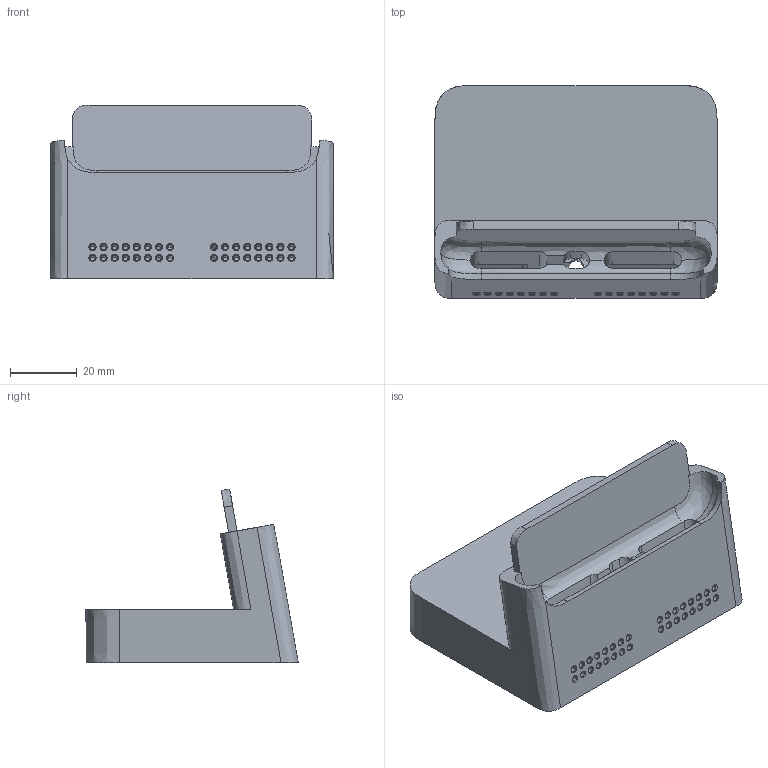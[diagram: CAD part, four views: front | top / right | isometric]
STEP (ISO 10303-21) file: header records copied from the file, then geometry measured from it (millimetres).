
FILE_DESCRIPTION((''),'2;1');
FILE_NAME('IPHONE_6_PLUS_DOCK_1MM_CASE_ATT','2014-10-26T',('dpfautz'),('< >'),'PRO/ENGINEER BY PARAMETRIC TECHNOLOGY CORPORATION, 2012480','PRO/ENGINEER BY PARAMETRIC TECHNOLOGY CORPORATION, 2012480','');
FILE_SCHEMA(('CONFIG_CONTROL_DESIGN'));
Length unit declared in the file: inch
Products named in the file (1): IPHONE_6_PLUS_DOCK_1MM_CASE_ATT
Bounding box: 84.28 x 63.5 x 51.97 mm (x, y, z)
Volume: 96170.3 mm3; surface area: 25891.4 mm2
Topology: 1 solids, 1 shells, 330 faces, 1083 edges, 748 vertices
Faces by surface type: cone 116, cylinder 87, plane 76, bspline 24, extrusion 18, torus 9
Entity records: 14704 total; most frequent: CARTESIAN_POINT 4800, ORIENTED_EDGE 2166, DIRECTION 2071, EDGE_CURVE 1083, AXIS2_PLACEMENT_3D 810, VERTEX_POINT 748, CIRCLE 522, VECTOR 451
